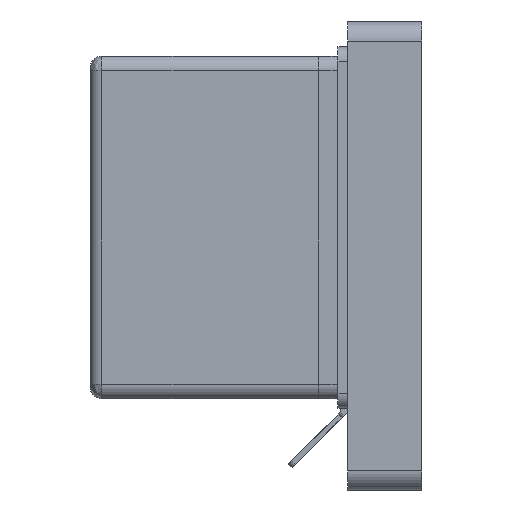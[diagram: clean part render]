
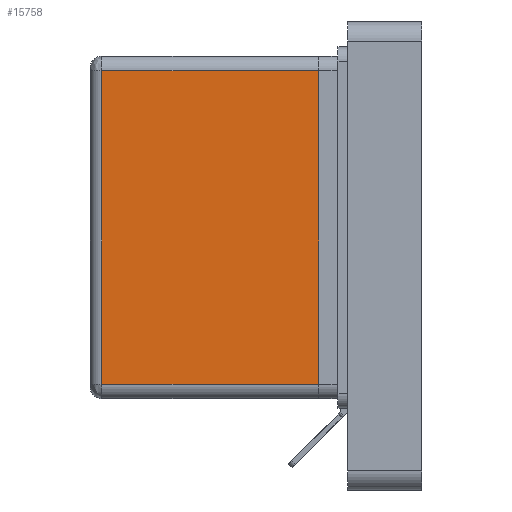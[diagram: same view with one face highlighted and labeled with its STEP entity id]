
A CAD part, left-side view. The second image highlights one B-rep face of the part: STEP entity #15758.
In plain terms, the highlighted planar face has unit normal (-1, 0, 0) as drawn and (1, 0, 0) by its records, which use the part's own axes.
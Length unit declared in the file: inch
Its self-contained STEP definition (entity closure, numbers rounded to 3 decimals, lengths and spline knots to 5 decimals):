
#2429=LINE('',#26948,#3946);
#2434=LINE('',#26988,#3951);
#2435=LINE('',#26990,#3952);
#2436=LINE('',#26991,#3953);
#3946=VECTOR('',#19670,0.3937);
#3951=VECTOR('',#19695,0.3937);
#3952=VECTOR('',#19696,0.3937);
#3953=VECTOR('',#19697,0.3937);
#4920=FACE_OUTER_BOUND('',#5834,.T.);
#5834=EDGE_LOOP('',(#13772,#13773,#13774,#13775));
#7457=VERTEX_POINT('',#26938);
#7459=VERTEX_POINT('',#26944);
#7467=VERTEX_POINT('',#26987);
#7468=VERTEX_POINT('',#26989);
#9606=EDGE_CURVE('',#7457,#7459,#2429,.T.);
#9618=EDGE_CURVE('',#7467,#7457,#2434,.T.);
#9619=EDGE_CURVE('',#7468,#7467,#2435,.T.);
#9620=EDGE_CURVE('',#7468,#7459,#2436,.T.);
#13772=ORIENTED_EDGE('',*,*,#9606,.F.);
#13773=ORIENTED_EDGE('',*,*,#9618,.F.);
#13774=ORIENTED_EDGE('',*,*,#9619,.F.);
#13775=ORIENTED_EDGE('',*,*,#9620,.T.);
#15024=PLANE('',#16801);
#15758=ADVANCED_FACE('',(#4920),#15024,.T.);
#16801=AXIS2_PLACEMENT_3D('',#26986,#19693,#19694);
#19670=DIRECTION('',(0.,1.,0.));
#19693=DIRECTION('center_axis',(1.,0.,0.));
#19694=DIRECTION('ref_axis',(0.,1.,0.));
#19695=DIRECTION('',(0.,0.,1.));
#19696=DIRECTION('',(0.,-1.,0.));
#19697=DIRECTION('',(0.,0.,1.));
#26938=CARTESIAN_POINT('',(5.12,-0.825,1.14));
#26944=CARTESIAN_POINT('',(5.12,0.825,1.14));
#26948=CARTESIAN_POINT('',(5.12,-0.4125,1.14));
#26986=CARTESIAN_POINT('Origin',(5.12,-0.825,0.));
#26987=CARTESIAN_POINT('',(5.12,-0.825,0.));
#26988=CARTESIAN_POINT('',(5.12,-0.825,0.));
#26989=CARTESIAN_POINT('',(5.12,0.825,0.));
#26990=CARTESIAN_POINT('',(5.12,0.825,0.));
#26991=CARTESIAN_POINT('',(5.12,0.825,0.));
